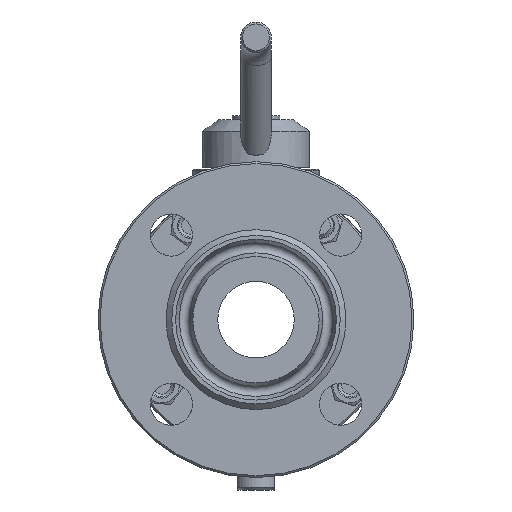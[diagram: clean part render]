
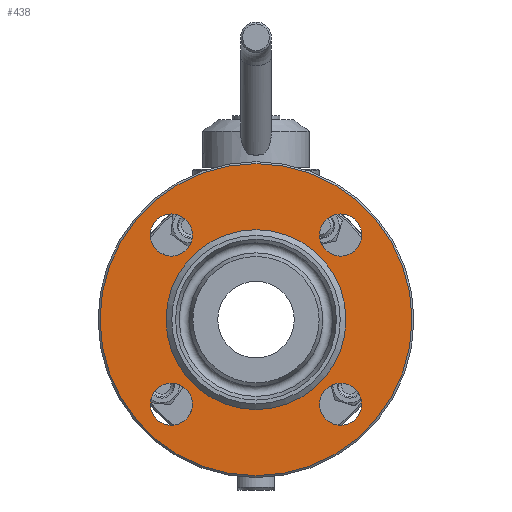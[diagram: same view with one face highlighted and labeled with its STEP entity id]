
A CAD part, left-side view. The second image highlights one B-rep face of the part: STEP entity #438.
In plain terms, the highlighted planar face has unit normal (-1, 0, 0).
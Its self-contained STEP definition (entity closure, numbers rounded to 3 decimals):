
#438=ADVANCED_FACE('',(#4973,#4975,#4977,#4979,#4981,#4983),#4985,.T.);
#4973=FACE_BOUND('',#4974,.T.);
#4974=EDGE_LOOP('',(#8379));
#4975=FACE_BOUND('',#4976,.T.);
#4976=EDGE_LOOP('',(#8380));
#4977=FACE_BOUND('',#4978,.T.);
#4978=EDGE_LOOP('',(#8381));
#4979=FACE_BOUND('',#4980,.T.);
#4980=EDGE_LOOP('',(#8382));
#4981=FACE_BOUND('',#4982,.T.);
#4982=EDGE_LOOP('',(#8383));
#4983=FACE_OUTER_BOUND('',#4984,.T.);
#4984=EDGE_LOOP('',(#8384));
#4985=PLANE('',#4986);
#4986=AXIS2_PLACEMENT_3D('',#4987,#4988,#4989);
#4987=CARTESIAN_POINT('',(-117.5,0.,0.));
#4988=DIRECTION('',(-1.,0.,0.));
#4989=DIRECTION('',(0.,0.,1.));
#8379=ORIENTED_EDGE('',*,*,#10920,.T.);
#8380=ORIENTED_EDGE('',*,*,#11016,.T.);
#8381=ORIENTED_EDGE('',*,*,#10917,.T.);
#8382=ORIENTED_EDGE('',*,*,#10915,.T.);
#8383=ORIENTED_EDGE('',*,*,#10913,.T.);
#8384=ORIENTED_EDGE('',*,*,#11017,.F.);
#10913=EDGE_CURVE('',#12561,#12561,#12562,.F.);
#10915=EDGE_CURVE('',#12564,#12564,#12565,.F.);
#10917=EDGE_CURVE('',#12567,#12567,#12568,.F.);
#10920=EDGE_CURVE('',#12570,#12570,#12572,.F.);
#11016=EDGE_CURVE('',#12725,#12725,#12726,.T.);
#11017=EDGE_CURVE('',#12727,#12727,#12728,.T.);
#12561=VERTEX_POINT('',#26623);
#12562=CIRCLE('',#26624,11.);
#12564=VERTEX_POINT('',#26631);
#12565=CIRCLE('',#26632,11.);
#12567=VERTEX_POINT('',#26639);
#12568=CIRCLE('',#26640,11.);
#12570=VERTEX_POINT('',#26647);
#12572=CIRCLE('',#26651,11.);
#12725=VERTEX_POINT('',#27291);
#12726=CIRCLE('',#27292,47.);
#12727=VERTEX_POINT('',#27296);
#12728=CIRCLE('',#27297,81.5);
#26623=CARTESIAN_POINT('',(-117.5,-44.194,-55.194));
#26624=AXIS2_PLACEMENT_3D('',#26625,#26626,#26627);
#26625=CARTESIAN_POINT('',(-117.5,-44.194,-44.194));
#26626=DIRECTION('',(-1.,0.,0.));
#26627=DIRECTION('',(0.,0.,-1.));
#26631=CARTESIAN_POINT('',(-117.5,-55.194,44.194));
#26632=AXIS2_PLACEMENT_3D('',#26633,#26634,#26635);
#26633=CARTESIAN_POINT('',(-117.5,-44.194,44.194));
#26634=DIRECTION('',(-1.,0.,0.));
#26635=DIRECTION('',(0.,-1.,0.));
#26639=CARTESIAN_POINT('',(-117.5,44.194,55.194));
#26640=AXIS2_PLACEMENT_3D('',#26641,#26642,#26643);
#26641=CARTESIAN_POINT('',(-117.5,44.194,44.194));
#26642=DIRECTION('',(-1.,0.,0.));
#26643=DIRECTION('',(0.,0.,1.));
#26647=CARTESIAN_POINT('',(-117.5,55.194,-44.194));
#26651=AXIS2_PLACEMENT_3D('',#26652,#26653,#26654);
#26652=CARTESIAN_POINT('',(-117.5,44.194,-44.194));
#26653=DIRECTION('',(-1.,0.,0.));
#26654=DIRECTION('',(0.,1.,0.));
#27291=CARTESIAN_POINT('',(-117.5,0.,47.));
#27292=AXIS2_PLACEMENT_3D('',#27293,#27294,#27295);
#27293=CARTESIAN_POINT('',(-117.5,0.,0.));
#27294=DIRECTION('',(1.,0.,0.));
#27295=DIRECTION('',(0.,0.,1.));
#27296=CARTESIAN_POINT('',(-117.5,0.,81.5));
#27297=AXIS2_PLACEMENT_3D('',#27298,#27299,#27300);
#27298=CARTESIAN_POINT('',(-117.5,0.,0.));
#27299=DIRECTION('',(1.,0.,0.));
#27300=DIRECTION('',(0.,0.,1.));
